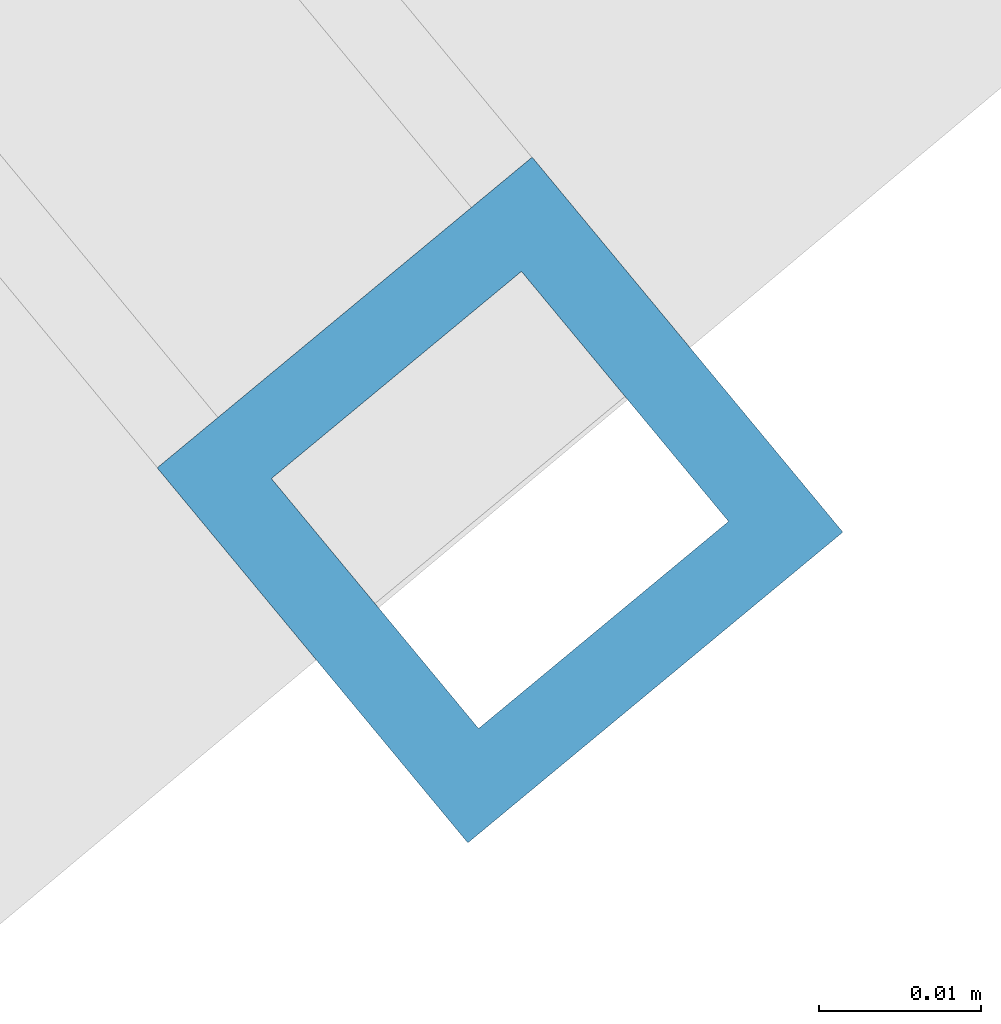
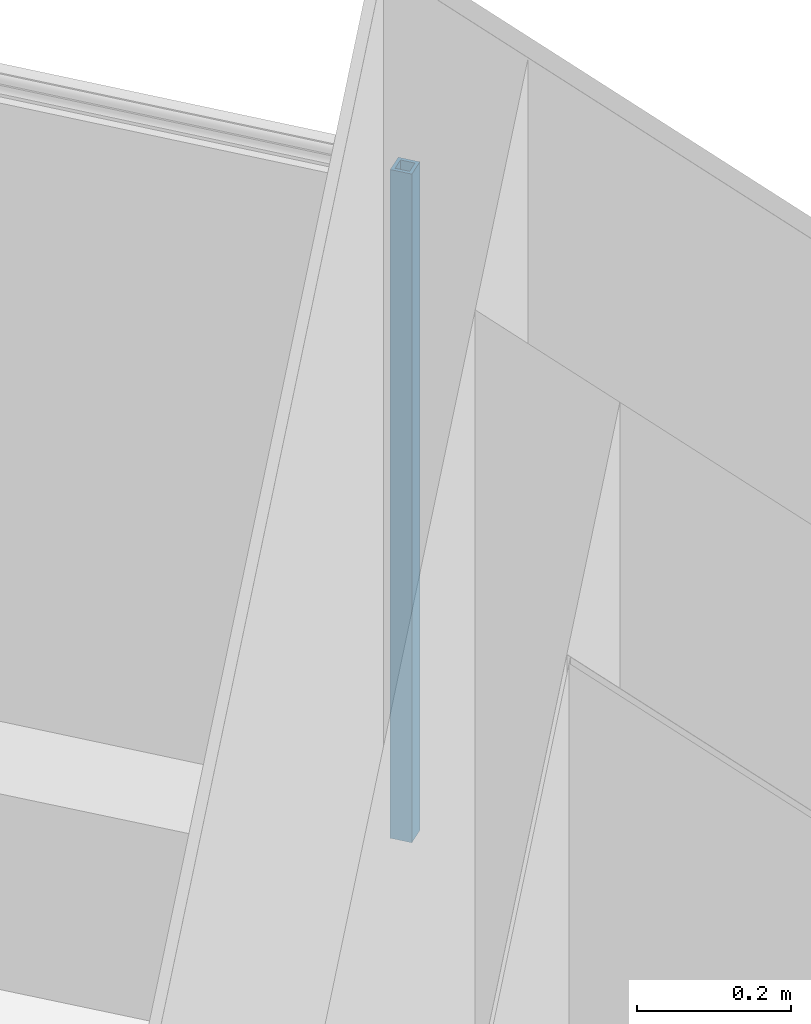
# One storey, part 45 of 75: 1 building element part, 1 element without a shape of its own.
"""IFC4 building model written with IfcOpenShell, lengths in metres."""

from ifc_helpers import new_model, entity, si_unit, converted_unit, derived_unit, direction, frame, origin_with_axes, place, context, subcontext, project, spatial, polygons, material, type_object, element, aggregate, save


model = new_model("IFC4")

# Units and contexts
model_context = context("Model", 3, precision=1e-05, world=origin_with_axes(), true_north=direction((0.0, 1.0)))
body_context = subcontext(model_context, "Body", "Model", "MODEL_VIEW")
ifc_project = project(units=[si_unit("LENGTHUNIT", "METRE"), si_unit("AREAUNIT", "SQUARE_METRE"), si_unit("VOLUMEUNIT", "CUBIC_METRE"), converted_unit("PLANEANGLEUNIT", "DEGREE", entity("IfcPlaneAngleMeasure", 0.0174532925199), si_unit("PLANEANGLEUNIT", "RADIAN"), dimensions=[0, 0, 0, 0, 0, 0, 0]), converted_unit("TIMEUNIT", "Year", entity("IfcTimeMeasure", 31556926.0), si_unit("TIMEUNIT", "SECOND"), dimensions=[0, 0, 1, 0, 0, 0, 0]), si_unit("MASSUNIT", "GRAM", prefix="KILO"), si_unit("THERMODYNAMICTEMPERATUREUNIT", "DEGREE_CELSIUS"), si_unit("LUMINOUSINTENSITYUNIT", "LUMEN"), si_unit("ENERGYUNIT", "JOULE", prefix="MEGA"), derived_unit("THERMALCONDUCTANCEUNIT", [(si_unit("POWERUNIT", "WATT"), 1), (si_unit("LENGTHUNIT", "METRE"), -1), (si_unit("THERMODYNAMICTEMPERATUREUNIT", "KELVIN"), -1)]), derived_unit("SPECIFICHEATCAPACITYUNIT", [(si_unit("ENERGYUNIT", "JOULE"), 1), (si_unit("MASSUNIT", "GRAM", prefix="KILO"), -1), (si_unit("THERMODYNAMICTEMPERATUREUNIT", "KELVIN"), -1)]), derived_unit("MASSDENSITYUNIT", [(si_unit("MASSUNIT", "GRAM", prefix="KILO"), 1), (si_unit("VOLUMEUNIT", "CUBIC_METRE"), -1)])], contexts=[model_context])

# Site, building, storey
site_placement = place(None, frame((-0.00153261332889, -0.00661245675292, 0.0), z_axis=(0.0, 0.0, 1.0), x_axis=(1.0, 0.0, 0.0)))
site = spatial("IfcSite", under=ifc_project, at=site_placement, Name="Gelände", CompositionType="ELEMENT")
building_placement = place(site_placement, origin_with_axes())
building = spatial("IfcBuilding", under=site, at=building_placement, Name="Gebäude", CompositionType="ELEMENT")
storey_placement = place(building_placement, frame((0.0, 0.0, -0.22), z_axis=(0.0, 0.0, 1.0), x_axis=(1.0, 0.0, 0.0)))
storey = spatial("IfcBuildingStorey", under=building, at=storey_placement, Name="EG", CompositionType="ELEMENT", Elevation=-0.22)

# Railing, building element part
railing_type = type_object("IfcRailingType", Name="Geländerart", PredefinedType="NOTDEFINED")
railing_placement = place(storey_placement, frame((0.180685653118, 26.4249004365, 0.523948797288), z_axis=(0.0, 0.0, 1.0), x_axis=(1.0, 0.0, 0.0)))
railing = element("IfcRailing", 1, at=railing_placement, inside=storey, type_object=railing_type, Name="Geländer - 001", PredefinedType="NOTDEFINED")
ifc_material = material(Name="Aluminium")
building_element_part_placement = place(railing_placement, origin_with_axes())
building_element_part = element("IfcBuildingElementPart", 2, at=building_element_part_placement, material=ifc_material, Name="Aluminium", PredefinedType="NOTDEFINED", context=body_context, shape_type="Tessellation", body=[
    polygons([(4.83938872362, 4.02469675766, 0.0), (4.86248969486, 4.04383690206, 0.0), (4.86248969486, 4.04383690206, 1.06), (4.83938872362, 4.02469675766, 1.06), (4.82024857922, 4.0477977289, 0.0), (4.84334955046, 4.0669378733, 0.0), (4.84004886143, 4.0317369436, 0.0), (4.85544950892, 4.04449703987, 0.0), (4.84268941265, 4.05989768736, 0.0), (4.82728876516, 4.04713759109, 0.0), (4.84334955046, 4.0669378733, 1.06), (4.82024857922, 4.0477977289, 1.06), (4.84004886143, 4.0317369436, 1.06), (4.82728876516, 4.04713759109, 1.06), (4.84268941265, 4.05989768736, 1.06), (4.85544950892, 4.04449703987, 1.06)], [[[1, 2, 3, 4]], [[1, 5, 6, 2], [7, 8, 9, 10]], [[2, 6, 11, 3]], [[4, 3, 11, 12], [13, 14, 15, 16]], [[5, 1, 4, 12]], [[6, 5, 12, 11]], [[8, 7, 13, 16]], [[9, 8, 16, 15]], [[10, 9, 15, 14]], [[7, 10, 14, 13]]], closed=True),
])
aggregate(railing, [building_element_part])

save(model, "model.ifc")
